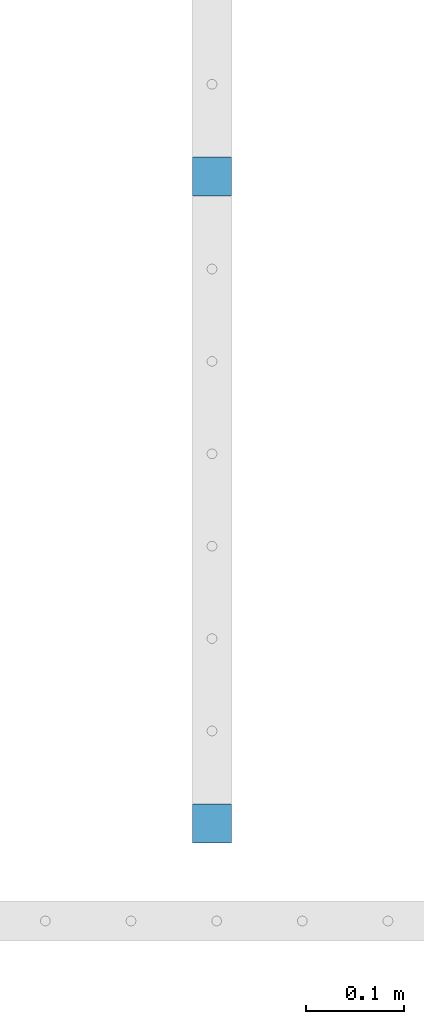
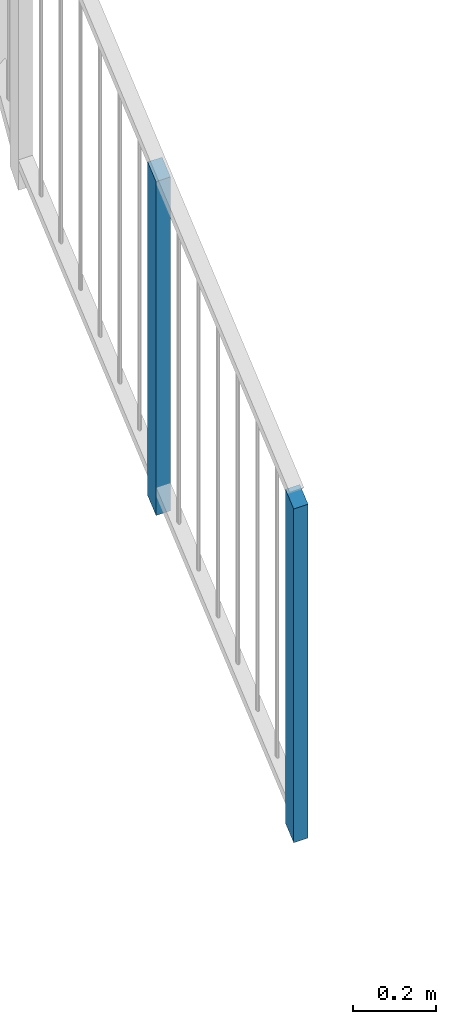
# One storey, part 4 of 135: 2 members, 1 element without a shape of its own.
"""IFC2X3 building model written with IfcOpenShell, lengths in millimetres."""

from ifc_helpers import new_model, entity, si_unit, converted_unit, derived_unit, money_unit, direction, frame, origin_with_axes, place, context, subcontext, project, spatial, faceted_brep, source, transform, mapped, material, type_object, type_shapes, element, aggregate, save


model = new_model("IFC2X3")

# Units and contexts
model_context = context("Model", 3, precision=0.01, world=origin_with_axes(), true_north=direction((0.0, 1.0)))
body_context = subcontext(model_context, "Body", "Model", "MODEL_VIEW")
ifc_project = project(units=[si_unit("LENGTHUNIT", "METRE", prefix="MILLI"), si_unit("AREAUNIT", "SQUARE_METRE"), si_unit("VOLUMEUNIT", "CUBIC_METRE"), converted_unit("PLANEANGLEUNIT", "DEGREE", entity("IfcPlaneAngleMeasure", 0.0174532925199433), si_unit("PLANEANGLEUNIT", "RADIAN"), dimensions=[0, 0, 0, 0, 0, 0, 0]), money_unit("EUR"), converted_unit("TIMEUNIT", "Year", entity("IfcTimeMeasure", 31557600.0), si_unit("TIMEUNIT", "SECOND"), dimensions=[0, 0, 1, 0, 0, 0, 0]), si_unit("MASSUNIT", "GRAM", prefix="KILO"), si_unit("THERMODYNAMICTEMPERATUREUNIT", "DEGREE_CELSIUS"), si_unit("LUMINOUSINTENSITYUNIT", "LUMEN"), si_unit("ENERGYUNIT", "JOULE", prefix="MEGA"), derived_unit("THERMALCONDUCTANCEUNIT", [(si_unit("POWERUNIT", "WATT"), 1), (si_unit("LENGTHUNIT", "METRE"), -1), (si_unit("THERMODYNAMICTEMPERATUREUNIT", "KELVIN"), -1)]), derived_unit("SPECIFICHEATCAPACITYUNIT", [(si_unit("ENERGYUNIT", "JOULE"), 1), (si_unit("MASSUNIT", "GRAM", prefix="KILO"), -1), (si_unit("THERMODYNAMICTEMPERATUREUNIT", "KELVIN"), -1)]), derived_unit("MASSDENSITYUNIT", [(si_unit("MASSUNIT", "GRAM", prefix="KILO"), 1), (si_unit("VOLUMEUNIT", "CUBIC_METRE"), -1)])], contexts=[model_context])

# Site, building, storey
site_placement = place(None, origin_with_axes())
site = spatial("IfcSite", under=ifc_project, at=site_placement, Name="Site", CompositionType="ELEMENT")
building_placement = place(site_placement, origin_with_axes())
building = spatial("IfcBuilding", under=site, at=building_placement, Name="Naam gebouw", CompositionType="ELEMENT")
storey_placement = place(building_placement, origin_with_axes())
storey = spatial("IfcBuildingStorey", under=building, at=storey_placement, Name="Begane grond N", CompositionType="ELEMENT", Elevation=0.0)

# Railing, members
railing_type = type_object("IfcRailingType", Name="Railing Type", PredefinedType="NOTDEFINED")
railing_placement = place(storey_placement, frame((799.9999999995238, 21575.82979156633, 4340.731848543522), z_axis=(0.0, 0.0, 1.0), x_axis=(1.0, 0.0, 0.0)))
railing = element("IfcRailing", 1, at=railing_placement, inside=storey, type_object=railing_type, Name="_Reling-x", PredefinedType="NOTDEFINED")
ifc_material = material(Name="Metaal - Staal C")
member_type = type_object("IfcMemberType", Name="IfcMember", PredefinedType="POST")
shared_shape = source(origin_with_axes(), body_context, "Body", "Brep", [
    faceted_brep([(20.0, 20.0, 16.89219060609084), (-20.0, 20.0, 16.89219060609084), (-20.00000000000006, 20.0, 996.8921906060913), (19.99999999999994, 20.0, 996.8921906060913), (20.0, -20.0, -16.89219060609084), (-20.0, -20.0, -16.89219060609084), (-20.00000000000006, -20.0, 963.1078093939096), (19.99999999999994, -20.0, 963.1078093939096)], [[[0, 1, 2, 3]], [[0, 4, 5, 1]], [[1, 5, 6, 2]], [[3, 2, 6, 7]], [[4, 0, 3, 7]], [[5, 4, 7, 6]]]),
])
type_shapes(member_type, [shared_shape])
member_1_placement = place(railing_placement, frame((-124.9824699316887, 0.0, 0.0), z_axis=(0.0, 0.0, 1.0), x_axis=(1.0, 0.0, 0.0)))
member_1 = element("IfcMember", 2, at=member_1_placement, type_object=member_type, material=ifc_material, Name="_Hoofdbaluster-x", ObjectType="POST", context=body_context, shape_type="MappedRepresentation", body=[
    mapped(shared_shape, transform((0.0, 0.0, 0.0))),
])
member_2_placement = place(railing_placement, frame((-124.9824699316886, 662.2834549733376, 559.3709178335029), z_axis=(0.0, 0.0, 1.0), x_axis=(1.0, 0.0, 0.0)))
member_2 = element("IfcMember", 3, at=member_2_placement, type_object=member_type, material=ifc_material, Name="_Baluster-x", ObjectType="POST", context=body_context, shape_type="MappedRepresentation", body=[
    mapped(shared_shape, transform((0.0, 0.0, 0.0))),
])
aggregate(railing, [member_1, member_2])

save(model, "model.ifc")
